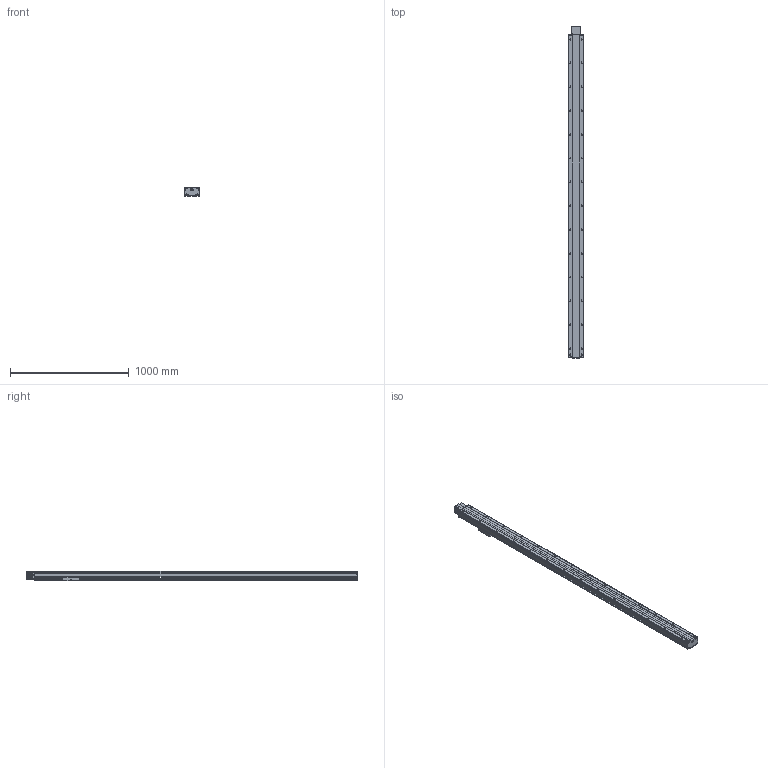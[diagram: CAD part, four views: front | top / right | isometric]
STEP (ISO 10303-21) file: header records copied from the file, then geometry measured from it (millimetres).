
FILE_DESCRIPTION(/* description */ (''),/* implementation_level */ '2;1');
FILE_NAME(/* name */ 'TKB120-FL-2400_asm1_stp.stp',/* time_stamp */ '2016-06-28T15:44:47+08:00',/* author */ (''),/* organization */ (''),/* preprocessor_version */ 'ST-DEVELOPER v15',/* originating_system */ 'SIEMENS PLM Software NX 8.5',/* authorisation */ '');
FILE_SCHEMA (('AUTOMOTIVE_DESIGN { 1 0 10303 214 3 1 1 1 }'));
Length unit declared in the file: millimetre
Products named in the file (3): 200-2; 200-1; TKB120-FL-2400_asm1_stp
Assembly tree (2 placements, depth 2):
  TKB120-FL-2400_asm1_stp
    200-1
    200-2
Bounding box: 134 x 2791 x 80 mm (x, y, z)
Volume: 6675222 mm3; surface area: 2791980.1 mm2
Topology: 2 solids, 3 shells, 912 faces, 2689 edges, 1762 vertices
Faces by surface type: cylinder 463, plane 407, cone 42
Full cylindrical faces by diameter (mm): 2.5 x4, 3.3 x20, 4.2 x4, 4.5 x24, 5 x40, 5.5 x30, 6.6 x6, 6.8 x4, 7.5 x4, 8 x12, 9 x6, 9.75 x60, 10.5 x4, 11 x2, 12 x4, 14 x2, 17 x2, 35 x2, 40 x3, 50 x2, 52 x1
Entity records: 30348 total; most frequent: CARTESIAN_POINT 6771, DIRECTION 4915, ORIENTED_EDGE 4562, EDGE_CURVE 2281, AXIS2_PLACEMENT_3D 1888, VERTEX_POINT 1674, EDGE_LOOP 1429, LINE 1139
